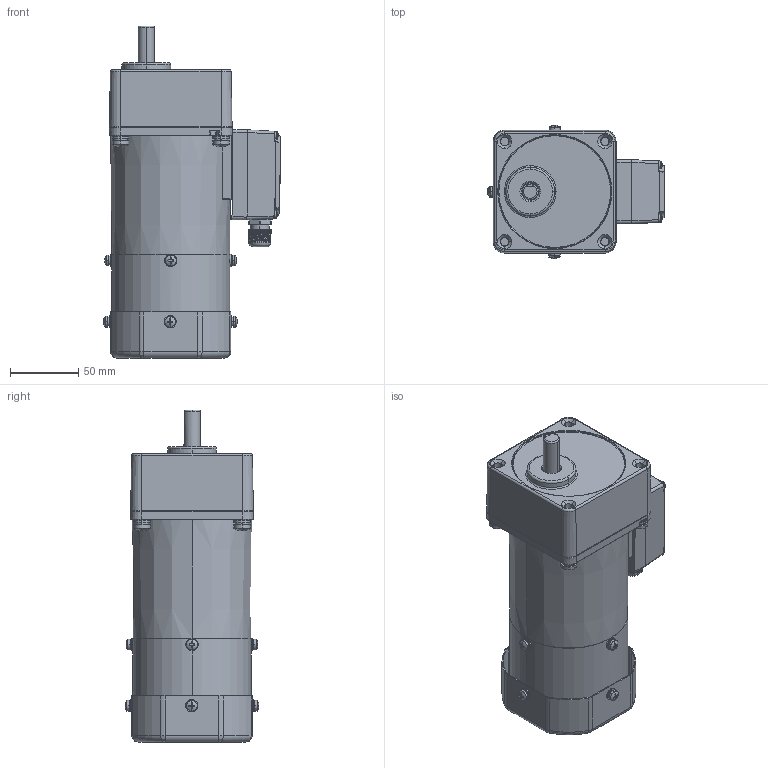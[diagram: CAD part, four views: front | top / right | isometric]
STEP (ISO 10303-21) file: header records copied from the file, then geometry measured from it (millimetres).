
FILE_DESCRIPTION (( 'STEP AP203' ), '1' );
FILE_NAME ('5RK60GN-CMFT(5GN3K-18K).STEP', '2023-08-08T06:02:00', ( 'Windows User' ), ( 'P R C' ), 'SwSTEP 2.0', 'SolidWorks 2019', '' );
FILE_SCHEMA (( 'CONFIG_CONTROL_DESIGN' ));
Length unit declared in the file: millimetre
Products named in the file (14): ^70TSJXHG____5RK60GN-CMFT(5GN3K-18K)(2)_5RK60GN-CMFT(5GN3K-18K); ^5RK60GN-CMFT(5GN3K-18K)(2)_5RK60GN-CMFT(5GN3K-18K); ^_70TSJXHG____5RK60GN-CMFT(5GN3K-18K)(2)_5RK60GN-CMFT(5GN3K-18K); 5RK60GN-CMFT(5GN3K-18K)(2)^5RK60GN-CMFT(5GN3K-18K); ^_5RK60GN-CMFT(5GN3K-18K)(2)_5RK60GN-CMFT(5GN3K-18K); ^___5RK60GN-CMFT(5GN3K-18K)(2)_5RK60GN-CMFT(5GN3K-18K); 70TSJXHG^___5RK60GN-CMFT(5GN3K-18K)(2)_5RK60GN-CMFT(5GN3K-18K); ^__5RK60GN-CMFT(5GN3K-18K)(2)_5RK60GN-CMFT(5GN3K-18K); 葩璃 (2) ^___5RK60GN-CMFT(5GN3K-18K)(2)_5RK60GN-CMFT(5GN3K-18K); 葩璃 (2) ^_70TSJXHG____5RK60GN-CMFT(5GN3K-18K)(2)_5RK60GN-CMFT(5GN3K-18K); 5RK60GN-CMFT(5GN3K-18K); 葩璃 (3) ^_70TSJXHG____5RK60GN-CMFT(5GN3K-18K)(2)_5RK60GN-CMFT(5GN3K-18K); 5GN3K-18K^5RK60GN-CMFT(5GN3K-18K)(2)_5RK60GN-CMFT(5GN3K-18K)
Assembly tree (16 placements, depth 8):
  5RK60GN-CMFT(5GN3K-18K)
    5RK60GN-CMFT(5GN3K-18K)(2)^5RK60GN-CMFT(5GN3K-18K)
      ^5RK60GN-CMFT(5GN3K-18K)(2)_5RK60GN-CMFT(5GN3K-18K)
        ^_5RK60GN-CMFT(5GN3K-18K)(2)_5RK60GN-CMFT(5GN3K-18K)
          ^__5RK60GN-CMFT(5GN3K-18K)(2)_5RK60GN-CMFT(5GN3K-18K)
            70TSJXHG^___5RK60GN-CMFT(5GN3K-18K)(2)_5RK60GN-CMFT(5GN3K-18K)
              ^70TSJXHG____5RK60GN-CMFT(5GN3K-18K)(2)_5RK60GN-CMFT(5GN3K-18K)
                ^_70TSJXHG____5RK60GN-CMFT(5GN3K-18K)(2)_5RK60GN-CMFT(5GN3K-18K)
                葩璃 (2) ^_70TSJXHG____5RK60GN-CMFT(5GN3K-18K)(2)_5RK60GN-CMFT(5GN3K-18K)
                葩璃 (3) ^_70TSJXHG____5RK60GN-CMFT(5GN3K-18K)(2)_5RK60GN-CMFT(5GN3K-18K)  x4
            ^___5RK60GN-CMFT(5GN3K-18K)(2)_5RK60GN-CMFT(5GN3K-18K)
            葩璃 (2) ^___5RK60GN-CMFT(5GN3K-18K)(2)_5RK60GN-CMFT(5GN3K-18K)
          ^__5RK60GN-CMFT(5GN3K-18K)(2)_5RK60GN-CMFT(5GN3K-18K)
      5GN3K-18K^5RK60GN-CMFT(5GN3K-18K)(2)_5RK60GN-CMFT(5GN3K-18K)
Bounding box: 129.69 x 98.11 x 243.5 mm (x, y, z)
Volume: 1107211.8 mm3; surface area: 195536.3 mm2
Topology: 64 solids, 64 shells, 2215 faces, 5705 edges, 3643 vertices
Faces by surface type: cylinder 890, plane 701, cone 374, sphere 108, torus 106, bspline 36
Entity records: 63965 total; most frequent: CARTESIAN_POINT 17007, DIRECTION 10079, ORIENTED_EDGE 9346, EDGE_CURVE 4673, AXIS2_PLACEMENT_3D 4112, VERTEX_POINT 3027, CIRCLE 2295, EDGE_LOOP 1982
